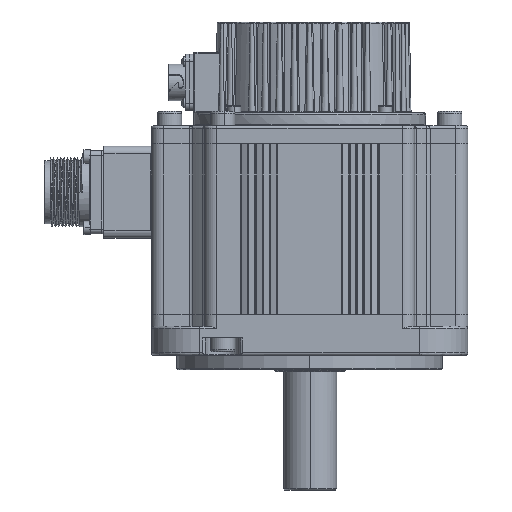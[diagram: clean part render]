
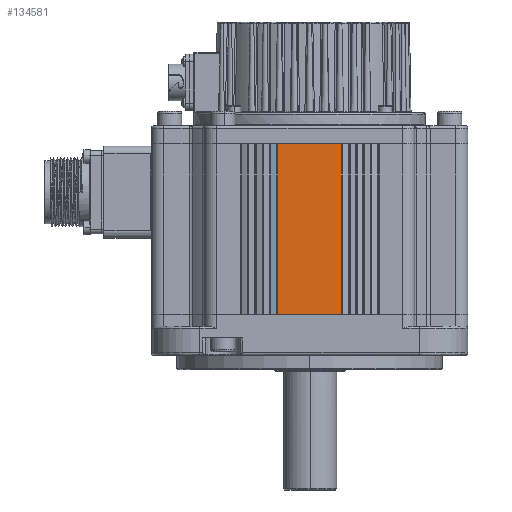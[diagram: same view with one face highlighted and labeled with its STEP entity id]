
A CAD part, left-side view. The second image highlights one B-rep face of the part: STEP entity #134581.
In plain terms, the highlighted planar face has unit normal (-1, 0, 0).
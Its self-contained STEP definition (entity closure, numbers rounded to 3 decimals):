
#1133 = DIRECTION ( 'NONE',  ( 0., 0., 1. ) ) ;
#9599 = CARTESIAN_POINT ( 'NONE',  ( -65.5, -13.2, 70.5 ) ) ;
#14856 = VECTOR ( 'NONE', #132669, 1000. ) ;
#19146 = EDGE_CURVE ( 'NONE', #97197, #64200, #121575, .T. ) ;
#21408 = LINE ( 'NONE', #23899, #72830 ) ;
#21896 = CARTESIAN_POINT ( 'NONE',  ( -65.5, -13.2, 0. ) ) ;
#23679 = CARTESIAN_POINT ( 'NONE',  ( -65.5, 13.2, 70.5 ) ) ;
#23899 = CARTESIAN_POINT ( 'NONE',  ( -65.5, 0., 0. ) ) ;
#25742 = VERTEX_POINT ( 'NONE', #21896 ) ;
#36761 = ORIENTED_EDGE ( 'NONE', *, *, #68774, .F. ) ;
#42037 = CARTESIAN_POINT ( 'NONE',  ( -65.5, -13.2, 70.5 ) ) ;
#43076 = PLANE ( 'NONE',  #117454 ) ;
#48008 = DIRECTION ( 'NONE',  ( 0., 1., 0. ) ) ;
#50919 = VERTEX_POINT ( 'NONE', #122315 ) ;
#53895 = ORIENTED_EDGE ( 'NONE', *, *, #118404, .F. ) ;
#59826 = EDGE_LOOP ( 'NONE', ( #36761, #96864, #53895, #127610 ) ) ;
#60169 = LINE ( 'NONE', #42037, #115372 ) ;
#64200 = VERTEX_POINT ( 'NONE', #23679 ) ;
#68774 = EDGE_CURVE ( 'NONE', #97197, #25742, #60169, .T. ) ;
#71599 = CARTESIAN_POINT ( 'NONE',  ( -65.5, 13.2, 70.5 ) ) ;
#72830 = VECTOR ( 'NONE', #48008, 1000. ) ;
#96864 = ORIENTED_EDGE ( 'NONE', *, *, #19146, .T. ) ;
#97197 = VERTEX_POINT ( 'NONE', #9599 ) ;
#101698 = DIRECTION ( 'NONE',  ( 0., 1., 0. ) ) ;
#105463 = FACE_OUTER_BOUND ( 'NONE', #59826, .T. ) ;
#108362 = CARTESIAN_POINT ( 'NONE',  ( -65.5, -13.5, 70.5 ) ) ;
#113030 = CARTESIAN_POINT ( 'NONE',  ( -65.5, -13.5, 70.5 ) ) ;
#115231 = LINE ( 'NONE', #71599, #152148 ) ;
#115372 = VECTOR ( 'NONE', #149169, 1000. ) ;
#117454 = AXIS2_PLACEMENT_3D ( 'NONE', #113030, #124960, #101698 ) ;
#118404 = EDGE_CURVE ( 'NONE', #50919, #64200, #115231, .T. ) ;
#121575 = LINE ( 'NONE', #108362, #14856 ) ;
#122315 = CARTESIAN_POINT ( 'NONE',  ( -65.5, 13.2, 0. ) ) ;
#124960 = DIRECTION ( 'NONE',  ( 1., 0., 0. ) ) ;
#127610 = ORIENTED_EDGE ( 'NONE', *, *, #129391, .F. ) ;
#129391 = EDGE_CURVE ( 'NONE', #25742, #50919, #21408, .T. ) ;
#132669 = DIRECTION ( 'NONE',  ( 0., 1., 0. ) ) ;
#134581 = ADVANCED_FACE ( 'NONE', ( #105463 ), #43076, .F. ) ;
#149169 = DIRECTION ( 'NONE',  ( 0., 0., -1. ) ) ;
#152148 = VECTOR ( 'NONE', #1133, 1000. ) ;
